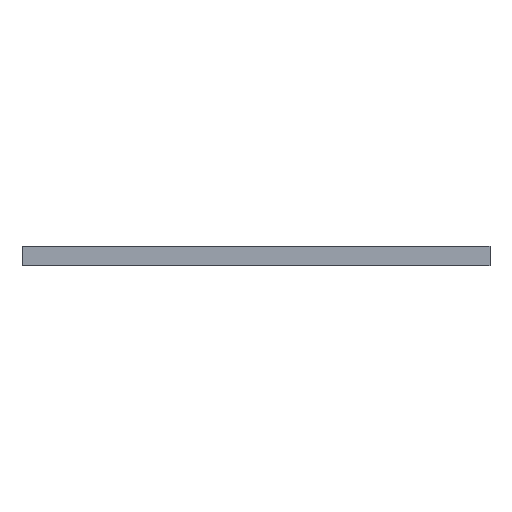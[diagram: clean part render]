
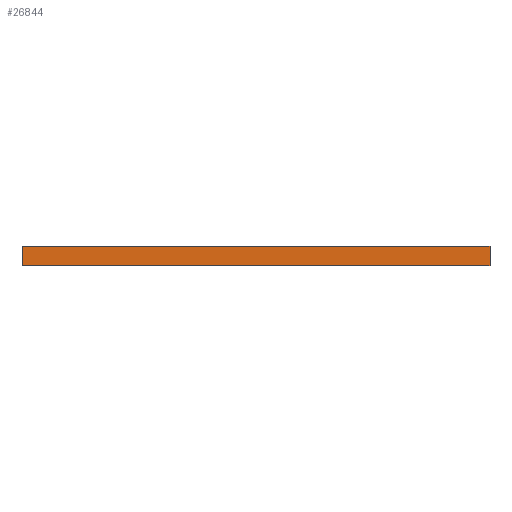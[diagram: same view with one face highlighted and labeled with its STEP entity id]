
A CAD part, front view. The second image highlights one B-rep face of the part: STEP entity #26844.
In plain terms, the highlighted planar face has unit normal (0, -1, 0).
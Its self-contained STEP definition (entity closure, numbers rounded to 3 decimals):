
#3593 = DIRECTION ( 'NONE',  ( -1., 0., 0. ) ) ;
#3758 = DIRECTION ( 'NONE',  ( 1., 0., 0. ) ) ;
#4139 = AXIS2_PLACEMENT_3D ( 'NONE', #8885, #22477, #3593 ) ;
#5329 = CARTESIAN_POINT ( 'NONE',  ( -12., 0., 0. ) ) ;
#7217 = ORIENTED_EDGE ( 'NONE', *, *, #29385, .T. ) ;
#8599 = ORIENTED_EDGE ( 'NONE', *, *, #22973, .F. ) ;
#8885 = CARTESIAN_POINT ( 'NONE',  ( -12., 0., 0.5 ) ) ;
#9418 = EDGE_CURVE ( 'NONE', #10157, #31309, #12632, .T. ) ;
#9637 = CARTESIAN_POINT ( 'NONE',  ( -12., 0., 0.5 ) ) ;
#10157 = VERTEX_POINT ( 'NONE', #9637 ) ;
#11821 = LINE ( 'NONE', #20131, #28442 ) ;
#12632 = LINE ( 'NONE', #23908, #20431 ) ;
#15297 = LINE ( 'NONE', #33816, #18150 ) ;
#15621 = DIRECTION ( 'NONE',  ( 0., 0., -1. ) ) ;
#17167 = VERTEX_POINT ( 'NONE', #21838 ) ;
#18150 = VECTOR ( 'NONE', #20599, 1000. ) ;
#19822 = CARTESIAN_POINT ( 'NONE',  ( -12., 0., 0.5 ) ) ;
#20131 = CARTESIAN_POINT ( 'NONE',  ( -12., 0., 0. ) ) ;
#20431 = VECTOR ( 'NONE', #15621, 1000. ) ;
#20599 = DIRECTION ( 'NONE',  ( 0., 0., -1. ) ) ;
#21701 = VECTOR ( 'NONE', #3758, 1000. ) ;
#21838 = CARTESIAN_POINT ( 'NONE',  ( 0., 0., 0. ) ) ;
#21843 = ORIENTED_EDGE ( 'NONE', *, *, #9418, .T. ) ;
#22246 = EDGE_LOOP ( 'NONE', ( #7217, #8599, #34694, #21843 ) ) ;
#22477 = DIRECTION ( 'NONE',  ( 0., 1., 0. ) ) ;
#22973 = EDGE_CURVE ( 'NONE', #28338, #17167, #15297, .T. ) ;
#23908 = CARTESIAN_POINT ( 'NONE',  ( -12., 0., 0.5 ) ) ;
#25284 = LINE ( 'NONE', #19822, #21701 ) ;
#26844 = ADVANCED_FACE ( 'NONE', ( #27586 ), #27423, .F. ) ;
#27423 = PLANE ( 'NONE',  #4139 ) ;
#27586 = FACE_OUTER_BOUND ( 'NONE', #22246, .T. ) ;
#27714 = DIRECTION ( 'NONE',  ( 1., 0., 0. ) ) ;
#28338 = VERTEX_POINT ( 'NONE', #32540 ) ;
#28442 = VECTOR ( 'NONE', #27714, 1000. ) ;
#29385 = EDGE_CURVE ( 'NONE', #31309, #17167, #11821, .T. ) ;
#30220 = EDGE_CURVE ( 'NONE', #10157, #28338, #25284, .T. ) ;
#31309 = VERTEX_POINT ( 'NONE', #5329 ) ;
#32540 = CARTESIAN_POINT ( 'NONE',  ( 0., 0., 0.5 ) ) ;
#33816 = CARTESIAN_POINT ( 'NONE',  ( 0., 0., 0.5 ) ) ;
#34694 = ORIENTED_EDGE ( 'NONE', *, *, #30220, .F. ) ;
